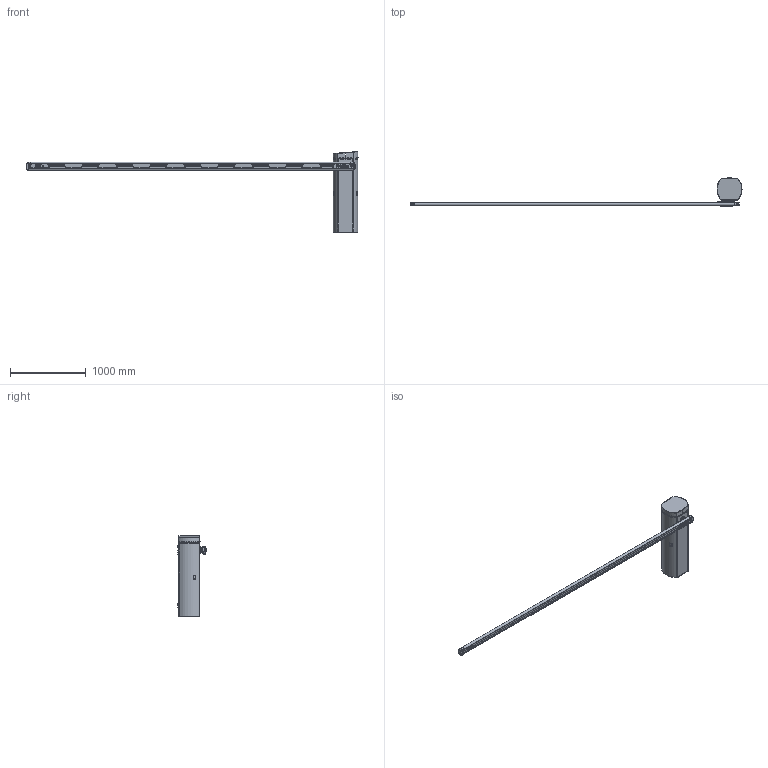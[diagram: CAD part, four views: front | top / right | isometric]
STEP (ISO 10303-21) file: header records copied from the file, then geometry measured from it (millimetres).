
FILE_DESCRIPTION(/* description */ ('Unknown'),/* implementation_level */ '2;1');
FILE_NAME(/* name */ 'GS4_с овальной стрелой',/* time_stamp */ '2021-11-18T10:28:37+03:00',/* author */ ('Unknown'),/* organization */ ('Unknown'),/* preprocessor_version */ 'ST-DEVELOPER v18.1',/* originating_system */ 'Solid Edge',/* authorisation */ 'Unknown');
FILE_SCHEMA (('CONFIG_CONTROL_DESIGN'));
Length unit declared in the file: millimetre
Products named in the file (1): GS4_ñ îâàëüíîé ñòðåëîé
Bounding box: 4395.62 x 372.9 x 1072.04 mm (x, y, z)
Volume: 5422275.6 mm3; surface area: 7071731.2 mm2
Topology: 79 solids, 79 shells, 2526 faces, 6727 edges, 4400 vertices
Faces by surface type: plane 1725, cylinder 506, cone 125, bspline 120, torus 26, sphere 24
Full cylindrical faces by diameter (mm): 2.459 x9, 3.95 x8, 4 x9, 4.134 x6, 4.917 x6, 5 x34, 6 x13, 6.4 x2, 6.466 x4, 6.647 x8, 7 x5, 7.2 x4, 7.5 x2, 8 x12, 9 x12, 11.3 x4, 13 x14, 16 x1, 18 x6, 20 x1, 21 x1, 25 x1, 30 x1, 34.475 x2, 40 x1, 58.3 x1, 62 x1, 69.75 x2, 75 x1, 80 x2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
Entity records: 87556 total; most frequent: CARTESIAN_POINT 19789, ORIENTED_EDGE 12554, DIRECTION 11965, EDGE_CURVE 6277, LINE 4669, VECTOR 4669, VERTEX_POINT 4275, AXIS2_PLACEMENT_3D 3648
